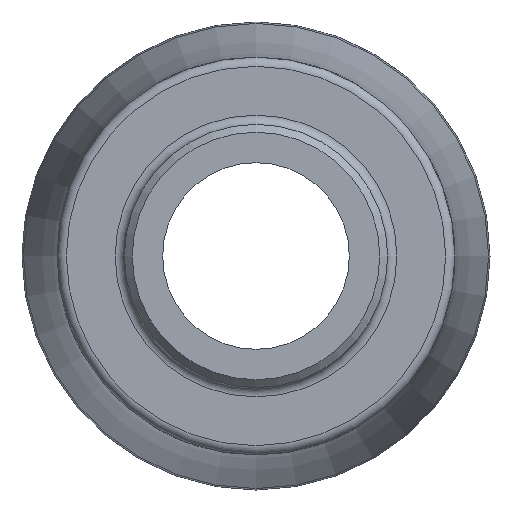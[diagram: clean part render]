
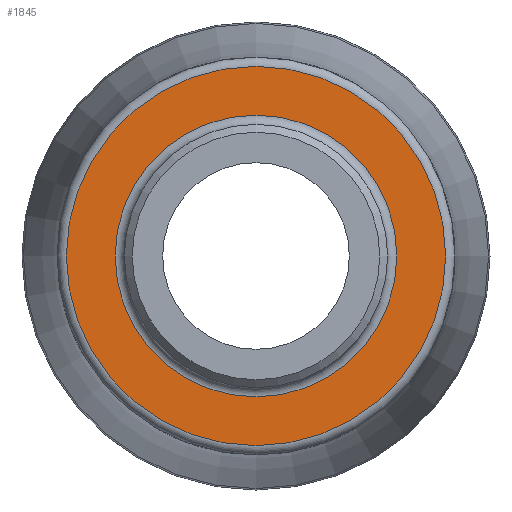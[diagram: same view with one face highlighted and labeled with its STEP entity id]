
A CAD part, left-side view. The second image highlights one B-rep face of the part: STEP entity #1845.
In plain terms, the highlighted planar face has unit normal (-1, 0, 0).
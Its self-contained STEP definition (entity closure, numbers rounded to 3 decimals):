
#194=FACE_BOUND('',#408,.T.);
#208=PLANE('',#2054);
#294=FACE_OUTER_BOUND('',#407,.T.);
#407=EDGE_LOOP('',(#1458,#1459));
#408=EDGE_LOOP('',(#1460,#1461));
#744=CIRCLE('',#2052,14.146);
#745=CIRCLE('',#2053,14.146);
#746=CIRCLE('',#2055,19.05);
#747=CIRCLE('',#2056,19.05);
#881=VERTEX_POINT('',#3251);
#882=VERTEX_POINT('',#3253);
#883=VERTEX_POINT('',#3257);
#884=VERTEX_POINT('',#3258);
#1092=EDGE_CURVE('',#881,#882,#744,.T.);
#1093=EDGE_CURVE('',#882,#881,#745,.T.);
#1094=EDGE_CURVE('',#883,#884,#746,.T.);
#1095=EDGE_CURVE('',#884,#883,#747,.T.);
#1458=ORIENTED_EDGE('',*,*,#1094,.F.);
#1459=ORIENTED_EDGE('',*,*,#1095,.F.);
#1460=ORIENTED_EDGE('',*,*,#1093,.F.);
#1461=ORIENTED_EDGE('',*,*,#1092,.F.);
#1845=ADVANCED_FACE('',(#294,#194),#208,.T.);
#2052=AXIS2_PLACEMENT_3D('',#3254,#2427,#2428);
#2053=AXIS2_PLACEMENT_3D('',#3255,#2429,#2430);
#2054=AXIS2_PLACEMENT_3D('',#3256,#2431,#2432);
#2055=AXIS2_PLACEMENT_3D('',#3259,#2433,#2434);
#2056=AXIS2_PLACEMENT_3D('',#3260,#2435,#2436);
#2427=DIRECTION('center_axis',(-1.,0.,0.));
#2428=DIRECTION('ref_axis',(0.,-1.,0.));
#2429=DIRECTION('center_axis',(-1.,0.,0.));
#2430=DIRECTION('ref_axis',(0.,-1.,0.));
#2431=DIRECTION('center_axis',(-1.,0.,0.));
#2432=DIRECTION('ref_axis',(0.,0.,1.));
#2433=DIRECTION('center_axis',(1.,0.,0.));
#2434=DIRECTION('ref_axis',(0.,-1.,0.));
#2435=DIRECTION('center_axis',(1.,0.,0.));
#2436=DIRECTION('ref_axis',(0.,-1.,0.));
#3251=CARTESIAN_POINT('',(17.,0.,14.146));
#3253=CARTESIAN_POINT('',(17.,14.146,0.));
#3254=CARTESIAN_POINT('Origin',(17.,0.,0.));
#3255=CARTESIAN_POINT('Origin',(17.,0.,0.));
#3256=CARTESIAN_POINT('Origin',(17.,19.975,0.));
#3257=CARTESIAN_POINT('',(17.,19.05,0.));
#3258=CARTESIAN_POINT('',(17.,0.,19.05));
#3259=CARTESIAN_POINT('Origin',(17.,0.,0.));
#3260=CARTESIAN_POINT('Origin',(17.,0.,0.));
